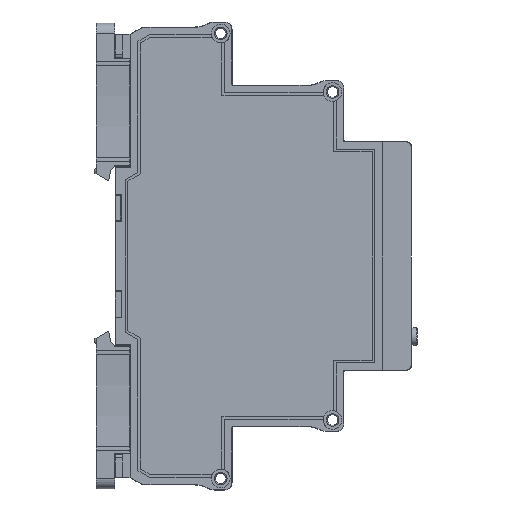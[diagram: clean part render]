
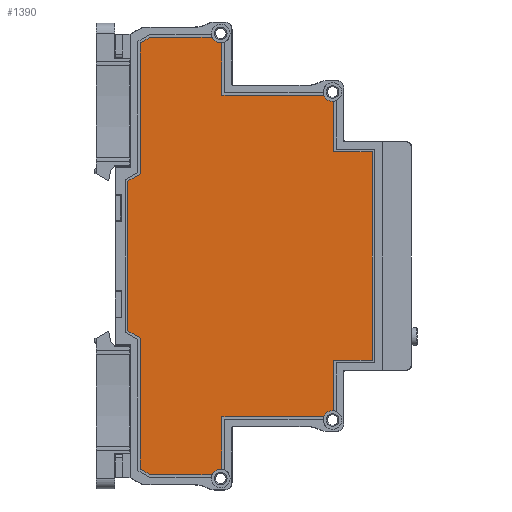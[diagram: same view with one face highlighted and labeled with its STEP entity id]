
A CAD part, front view. The second image highlights one B-rep face of the part: STEP entity #1390.
In plain terms, the highlighted planar face has unit normal (0, -1, 0) as drawn and (1, 0, 0) by its records, which use the part's own axes.
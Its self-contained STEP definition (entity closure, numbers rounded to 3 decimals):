
#1390=ADVANCED_FACE('',(#23926),#23928,.T.);
#23926=FACE_BOUND('',#23927,.T.);
#23927=EDGE_LOOP('',(#41744,#41745,#41746,#41747,#41748,#41749,#41750,#41751,#41752,
#41753,#41754,#41755,#41756,#41757,#41758,#41759,#41760,#41761,#41762,#41763,#41764,
#41765));
#23928=PLANE('',#23929);
#23929=AXIS2_PLACEMENT_3D('',#23930,#23931,#23932);
#23930=CARTESIAN_POINT('',(6.5,0.,0.));
#23931=DIRECTION('',(1.,0.,0.));
#23932=DIRECTION('',(0.,0.,-1.));
#41744=ORIENTED_EDGE('',*,*,#56490,.F.);
#41745=ORIENTED_EDGE('',*,*,#56491,.T.);
#41746=ORIENTED_EDGE('',*,*,#56408,.F.);
#41747=ORIENTED_EDGE('',*,*,#56492,.T.);
#41748=ORIENTED_EDGE('',*,*,#56493,.T.);
#41749=ORIENTED_EDGE('',*,*,#56494,.T.);
#41750=ORIENTED_EDGE('',*,*,#56495,.T.);
#41751=ORIENTED_EDGE('',*,*,#56496,.T.);
#41752=ORIENTED_EDGE('',*,*,#56392,.F.);
#41753=ORIENTED_EDGE('',*,*,#56497,.F.);
#41754=ORIENTED_EDGE('',*,*,#56498,.T.);
#41755=ORIENTED_EDGE('',*,*,#56402,.F.);
#41756=ORIENTED_EDGE('',*,*,#56499,.T.);
#41757=ORIENTED_EDGE('',*,*,#56500,.F.);
#41758=ORIENTED_EDGE('',*,*,#56501,.T.);
#41759=ORIENTED_EDGE('',*,*,#56502,.T.);
#41760=ORIENTED_EDGE('',*,*,#56503,.T.);
#41761=ORIENTED_EDGE('',*,*,#56504,.T.);
#41762=ORIENTED_EDGE('',*,*,#56505,.T.);
#41763=ORIENTED_EDGE('',*,*,#56506,.F.);
#41764=ORIENTED_EDGE('',*,*,#56507,.T.);
#41765=ORIENTED_EDGE('',*,*,#56418,.F.);
#56392=EDGE_CURVE('',#63506,#63491,#63508,.T.);
#56402=EDGE_CURVE('',#63526,#63511,#63528,.T.);
#56408=EDGE_CURVE('',#63538,#63540,#63541,.T.);
#56418=EDGE_CURVE('',#63558,#63560,#63561,.T.);
#56490=EDGE_CURVE('',#63699,#63558,#63700,.T.);
#56491=EDGE_CURVE('',#63699,#63540,#63701,.T.);
#56492=EDGE_CURVE('',#63538,#63702,#63703,.T.);
#56493=EDGE_CURVE('',#63702,#63704,#63705,.T.);
#56494=EDGE_CURVE('',#63704,#63706,#63707,.T.);
#56495=EDGE_CURVE('',#63706,#63708,#63709,.T.);
#56496=EDGE_CURVE('',#63708,#63491,#63710,.T.);
#56497=EDGE_CURVE('',#63711,#63506,#63712,.T.);
#56498=EDGE_CURVE('',#63711,#63511,#63713,.T.);
#56499=EDGE_CURVE('',#63526,#63714,#63715,.T.);
#56500=EDGE_CURVE('',#63716,#63714,#63717,.T.);
#56501=EDGE_CURVE('',#63716,#63718,#63719,.T.);
#56502=EDGE_CURVE('',#63718,#63720,#63721,.T.);
#56503=EDGE_CURVE('',#63720,#63722,#63723,.T.);
#56504=EDGE_CURVE('',#63722,#63724,#63725,.T.);
#56505=EDGE_CURVE('',#63724,#63726,#63727,.T.);
#56506=EDGE_CURVE('',#63728,#63726,#63729,.T.);
#56507=EDGE_CURVE('',#63728,#63560,#63730,.T.);
#63491=VERTEX_POINT('',#75939);
#63506=VERTEX_POINT('',#75972);
#63508=CIRCLE('',#75976,1.85);
#63511=VERTEX_POINT('',#75985);
#63526=VERTEX_POINT('',#76018);
#63528=CIRCLE('',#76022,1.85);
#63538=VERTEX_POINT('',#76046);
#63540=VERTEX_POINT('',#76050);
#63541=CIRCLE('',#76051,1.85);
#63558=VERTEX_POINT('',#76092);
#63560=VERTEX_POINT('',#76096);
#63561=CIRCLE('',#76097,1.85);
#63699=VERTEX_POINT('',#76401);
#63700=LINE('',#76402,#76403);
#63701=LINE('',#76405,#76406);
#63702=VERTEX_POINT('',#76408);
#63703=LINE('',#76409,#76410);
#63704=VERTEX_POINT('',#76412);
#63705=LINE('',#76413,#76414);
#63706=VERTEX_POINT('',#76416);
#63707=LINE('',#76417,#76418);
#63708=VERTEX_POINT('',#76420);
#63709=LINE('',#76421,#76422);
#63710=LINE('',#76424,#76425);
#63711=VERTEX_POINT('',#76427);
#63712=LINE('',#76428,#76429);
#63713=LINE('',#76431,#76432);
#63714=VERTEX_POINT('',#76434);
#63715=LINE('',#76435,#76436);
#63716=VERTEX_POINT('',#76438);
#63717=LINE('',#76439,#76440);
#63718=VERTEX_POINT('',#76442);
#63719=LINE('',#76443,#76444);
#63720=VERTEX_POINT('',#76446);
#63721=LINE('',#76447,#76448);
#63722=VERTEX_POINT('',#76450);
#63723=LINE('',#76451,#76452);
#63724=VERTEX_POINT('',#76454);
#63725=LINE('',#76455,#76456);
#63726=VERTEX_POINT('',#76458);
#63727=LINE('',#76459,#76460);
#63728=VERTEX_POINT('',#76462);
#63729=LINE('',#76463,#76464);
#63730=LINE('',#76466,#76467);
#75939=CARTESIAN_POINT('',(6.5,-30.541,38.985));
#75972=CARTESIAN_POINT('',(6.5,-31.7,37.015));
#75976=AXIS2_PLACEMENT_3D('',#75977,#75978,#75979);
#75977=CARTESIAN_POINT('',(6.5,-32.375,38.738));
#75978=DIRECTION('',(1.,0.,0.));
#75979=DIRECTION('',(0.,0.365,-0.931));
#75985=CARTESIAN_POINT('',(6.5,-42.103,16.897));
#76018=CARTESIAN_POINT('',(6.5,-43.2,14.953));
#76022=AXIS2_PLACEMENT_3D('',#76023,#76024,#76025);
#76023=CARTESIAN_POINT('',(6.5,-43.937,16.65));
#76024=DIRECTION('',(1.,0.,0.));
#76025=DIRECTION('',(0.,0.398,-0.917));
#76046=CARTESIAN_POINT('',(6.5,30.541,38.985));
#76050=CARTESIAN_POINT('',(6.5,31.7,37.015));
#76051=AXIS2_PLACEMENT_3D('',#76052,#76053,#76054);
#76052=CARTESIAN_POINT('',(6.5,32.375,38.738));
#76053=DIRECTION('',(1.,0.,0.));
#76054=DIRECTION('',(0.,-0.991,0.134));
#76092=CARTESIAN_POINT('',(6.5,42.103,16.897));
#76096=CARTESIAN_POINT('',(6.5,43.2,14.953));
#76097=AXIS2_PLACEMENT_3D('',#76098,#76099,#76100);
#76098=CARTESIAN_POINT('',(6.5,43.937,16.65));
#76099=DIRECTION('',(1.,0.,0.));
#76100=DIRECTION('',(0.,-0.991,0.134));
#76401=CARTESIAN_POINT('',(6.5,31.7,16.897));
#76402=CARTESIAN_POINT('',(6.5,31.7,16.897));
#76403=VECTOR('',#76404,1.);
#76404=DIRECTION('',(0.,1.,0.));
#76405=CARTESIAN_POINT('',(6.5,31.7,16.897));
#76406=VECTOR('',#76407,1.);
#76407=DIRECTION('',(0.,0.,1.));
#76408=CARTESIAN_POINT('',(6.5,20.6,38.985));
#76409=CARTESIAN_POINT('',(6.5,30.541,38.985));
#76410=VECTOR('',#76411,1.);
#76411=DIRECTION('',(0.,-1.,0.));
#76412=CARTESIAN_POINT('',(6.5,20.6,46.53));
#76413=CARTESIAN_POINT('',(6.5,20.6,38.985));
#76414=VECTOR('',#76415,1.);
#76415=DIRECTION('',(0.,0.,1.));
#76416=CARTESIAN_POINT('',(6.5,-20.6,46.53));
#76417=CARTESIAN_POINT('',(6.5,20.6,46.53));
#76418=VECTOR('',#76419,1.);
#76419=DIRECTION('',(0.,-1.,0.));
#76420=CARTESIAN_POINT('',(6.5,-20.6,38.985));
#76421=CARTESIAN_POINT('',(6.5,-20.6,46.53));
#76422=VECTOR('',#76423,1.);
#76423=DIRECTION('',(0.,0.,-1.));
#76424=CARTESIAN_POINT('',(6.5,-20.6,38.985));
#76425=VECTOR('',#76426,1.);
#76426=DIRECTION('',(0.,-1.,0.));
#76427=CARTESIAN_POINT('',(6.5,-31.7,16.897));
#76428=CARTESIAN_POINT('',(6.5,-31.7,16.897));
#76429=VECTOR('',#76430,1.);
#76430=DIRECTION('',(0.,0.,1.));
#76431=CARTESIAN_POINT('',(6.5,-31.7,16.897));
#76432=VECTOR('',#76433,1.);
#76433=DIRECTION('',(0.,-1.,0.));
#76434=CARTESIAN_POINT('',(6.5,-43.2,2.761));
#76435=CARTESIAN_POINT('',(6.5,-43.2,14.953));
#76436=VECTOR('',#76437,1.);
#76437=DIRECTION('',(0.,0.,-1.));
#76438=CARTESIAN_POINT('',(6.5,-42.068,0.8));
#76439=CARTESIAN_POINT('',(6.5,-42.068,0.8));
#76440=VECTOR('',#76441,1.);
#76441=DIRECTION('',(0.,-0.5,0.866));
#76442=CARTESIAN_POINT('',(6.5,-16.211,0.8));
#76443=CARTESIAN_POINT('',(6.5,-42.068,0.8));
#76444=VECTOR('',#76445,1.);
#76445=DIRECTION('',(0.,1.,0.));
#76446=CARTESIAN_POINT('',(6.5,-14.768,-1.7));
#76447=CARTESIAN_POINT('',(6.5,-16.211,0.8));
#76448=VECTOR('',#76449,1.);
#76449=DIRECTION('',(0.,0.5,-0.866));
#76450=CARTESIAN_POINT('',(6.5,14.768,-1.7));
#76451=CARTESIAN_POINT('',(6.5,-14.768,-1.7));
#76452=VECTOR('',#76453,1.);
#76453=DIRECTION('',(0.,1.,0.));
#76454=CARTESIAN_POINT('',(6.5,16.211,0.8));
#76455=CARTESIAN_POINT('',(6.5,14.768,-1.7));
#76456=VECTOR('',#76457,1.);
#76457=DIRECTION('',(0.,0.5,0.866));
#76458=CARTESIAN_POINT('',(6.5,42.068,0.8));
#76459=CARTESIAN_POINT('',(6.5,16.211,0.8));
#76460=VECTOR('',#76461,1.);
#76461=DIRECTION('',(0.,1.,0.));
#76462=CARTESIAN_POINT('',(6.5,43.2,2.761));
#76463=CARTESIAN_POINT('',(6.5,43.2,2.761));
#76464=VECTOR('',#76465,1.);
#76465=DIRECTION('',(0.,-0.5,-0.866));
#76466=CARTESIAN_POINT('',(6.5,43.2,2.761));
#76467=VECTOR('',#76468,1.);
#76468=DIRECTION('',(0.,0.,1.));
